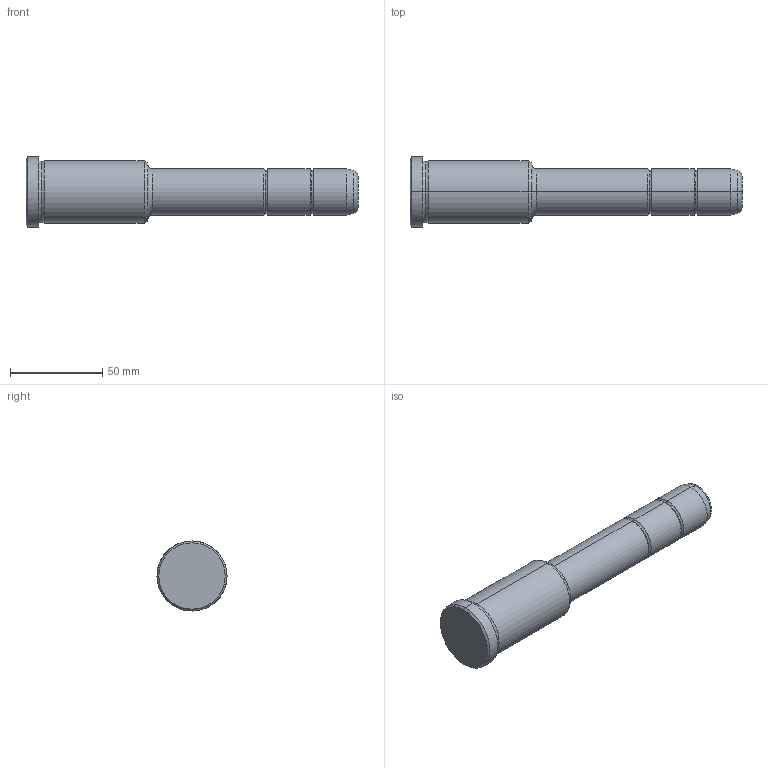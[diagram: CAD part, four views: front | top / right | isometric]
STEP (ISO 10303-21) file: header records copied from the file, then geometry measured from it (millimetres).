
FILE_DESCRIPTION(('CATIA V5 STEP Exchange'),'2;1');
FILE_NAME('C:\Users\Utente\Desktop\IO LAVORO\3D X SITO CF\X SITO\PLASTICA\351\351-25X66X180.stp','2021-09-07T10:07:25+00:00',('none'),('none'),'CATIA Version 5 Release 20 GA (IN-10)','CATIA V5 STEP AP203','none');
FILE_SCHEMA(('CONFIG_CONTROL_DESIGN'));
Length unit declared in the file: millimetre
Products named in the file (1): 351-25X66X180
Bounding box: 180 x 38 x 38 mm (x, y, z)
Volume: 116676.7 mm3; surface area: 18049.5 mm2
Topology: 1 solids, 1 shells, 36 faces, 102 edges, 70 vertices
Faces by surface type: torus 16, cylinder 10, cone 6, plane 4
Entity records: 1292 total; most frequent: CARTESIAN_POINT 321, ORIENTED_EDGE 204, DIRECTION 166, AXIS2_PLACEMENT_3D 115, EDGE_CURVE 102, CIRCLE 78, VERTEX_POINT 70, EDGE_LOOP 38
